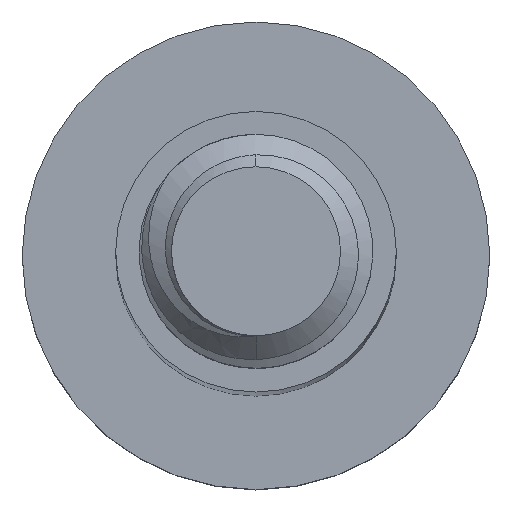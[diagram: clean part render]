
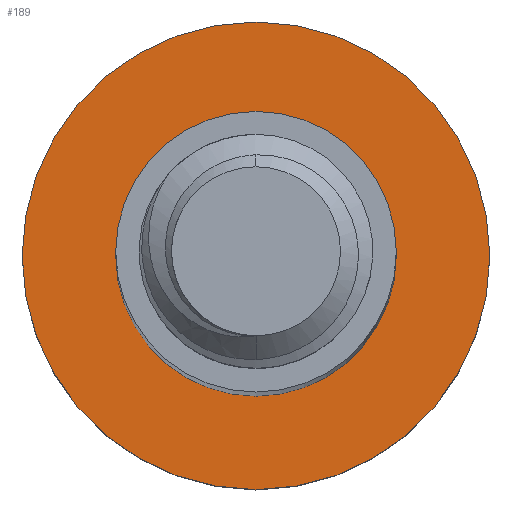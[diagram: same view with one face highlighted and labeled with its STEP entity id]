
A CAD part, top view. The second image highlights one B-rep face of the part: STEP entity #189.
In plain terms, the highlighted planar face has unit normal (0, 0, 1).
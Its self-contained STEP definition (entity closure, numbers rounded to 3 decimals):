
#15 = CARTESIAN_POINT ( 'NONE',  ( 0., 0., -50. ) ) ;
#89 = CIRCLE ( 'NONE', #699, 3. ) ;
#134 = CARTESIAN_POINT ( 'NONE',  ( 5., 0., -50. ) ) ;
#189 = ADVANCED_FACE ( 'NONE', ( #1470, #2204 ), #1288, .F. ) ;
#193 = ORIENTED_EDGE ( 'NONE', *, *, #1744, .F. ) ;
#202 = VERTEX_POINT ( 'NONE', #259 ) ;
#244 = DIRECTION ( 'NONE',  ( -1., 0., 0. ) ) ;
#259 = CARTESIAN_POINT ( 'NONE',  ( -3., 0., -50. ) ) ;
#385 = DIRECTION ( 'NONE',  ( -1., 0., 0. ) ) ;
#386 = ORIENTED_EDGE ( 'NONE', *, *, #1606, .T. ) ;
#400 = CIRCLE ( 'NONE', #1670, 5. ) ;
#613 = DIRECTION ( 'NONE',  ( 0., 0., -1. ) ) ;
#643 = ORIENTED_EDGE ( 'NONE', *, *, #1537, .F. ) ;
#673 = DIRECTION ( 'NONE',  ( 0., 0., -1. ) ) ;
#699 = AXIS2_PLACEMENT_3D ( 'NONE', #2327, #673, #2153 ) ;
#742 = EDGE_LOOP ( 'NONE', ( #979, #386 ) ) ;
#963 = AXIS2_PLACEMENT_3D ( 'NONE', #1133, #1831, #385 ) ;
#979 = ORIENTED_EDGE ( 'NONE', *, *, #2301, .T. ) ;
#1033 = CARTESIAN_POINT ( 'NONE',  ( 3., 0., -50. ) ) ;
#1045 = DIRECTION ( 'NONE',  ( -1., 0., 0. ) ) ;
#1133 = CARTESIAN_POINT ( 'NONE',  ( 0., 0., -50. ) ) ;
#1158 = VERTEX_POINT ( 'NONE', #134 ) ;
#1288 = PLANE ( 'NONE',  #1907 ) ;
#1351 = VERTEX_POINT ( 'NONE', #1033 ) ;
#1470 = FACE_BOUND ( 'NONE', #742, .T. ) ;
#1479 = CARTESIAN_POINT ( 'NONE',  ( -5., 0., -50. ) ) ;
#1510 = CIRCLE ( 'NONE', #1929, 3. ) ;
#1514 = DIRECTION ( 'NONE',  ( 0., 0., -1. ) ) ;
#1537 = EDGE_CURVE ( 'NONE', #2276, #1158, #400, .T. ) ;
#1581 = CARTESIAN_POINT ( 'NONE',  ( 0., 0., -50. ) ) ;
#1606 = EDGE_CURVE ( 'NONE', #1351, #202, #89, .T. ) ;
#1613 = EDGE_LOOP ( 'NONE', ( #193, #643 ) ) ;
#1662 = CARTESIAN_POINT ( 'NONE',  ( 0., 0., -50. ) ) ;
#1670 = AXIS2_PLACEMENT_3D ( 'NONE', #1581, #1514, #1045 ) ;
#1744 = EDGE_CURVE ( 'NONE', #1158, #2276, #2157, .T. ) ;
#1831 = DIRECTION ( 'NONE',  ( 0., 0., -1. ) ) ;
#1907 = AXIS2_PLACEMENT_3D ( 'NONE', #1662, #613, #244 ) ;
#1929 = AXIS2_PLACEMENT_3D ( 'NONE', #15, #1991, #2008 ) ;
#1991 = DIRECTION ( 'NONE',  ( 0., 0., -1. ) ) ;
#2008 = DIRECTION ( 'NONE',  ( -1., 0., 0. ) ) ;
#2153 = DIRECTION ( 'NONE',  ( -1., 0., 0. ) ) ;
#2157 = CIRCLE ( 'NONE', #963, 5. ) ;
#2204 = FACE_OUTER_BOUND ( 'NONE', #1613, .T. ) ;
#2276 = VERTEX_POINT ( 'NONE', #1479 ) ;
#2301 = EDGE_CURVE ( 'NONE', #202, #1351, #1510, .T. ) ;
#2327 = CARTESIAN_POINT ( 'NONE',  ( 0., 0., -50. ) ) ;
